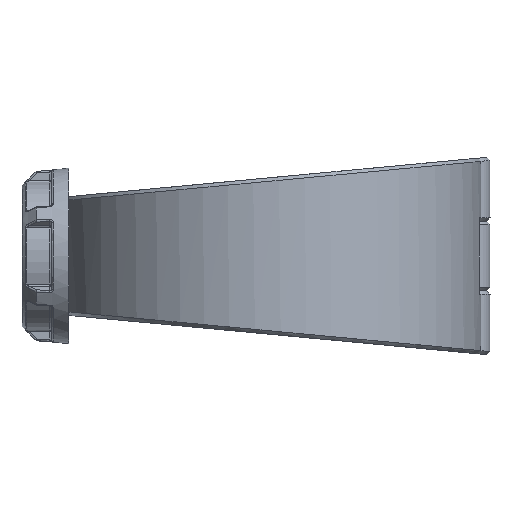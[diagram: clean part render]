
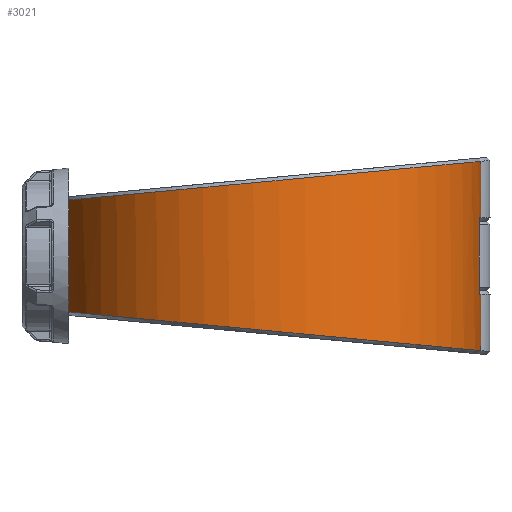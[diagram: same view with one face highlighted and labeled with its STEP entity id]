
A CAD part, left-side view. The second image highlights one B-rep face of the part: STEP entity #3021.
In plain terms, the highlighted cylindrical face has radius 123 mm (diameter 246 mm), a partial arc.
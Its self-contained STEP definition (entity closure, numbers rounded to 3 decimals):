
#212=FACE_OUTER_BOUND('',#416,.T.);
#416=EDGE_LOOP('',(#2055,#2056,#2057,#2058,#2059,#2060,#2061,#2062,#2063,
#2064,#2065,#2066));
#623=CIRCLE('',#3251,123.);
#626=CIRCLE('',#3256,123.);
#805=B_SPLINE_CURVE_WITH_KNOTS('',3,(#4512,#4513,#4514,#4515),
 .UNSPECIFIED.,.F.,.F.,(4,4),(-0.001,0.),.UNSPECIFIED.);
#806=B_SPLINE_CURVE_WITH_KNOTS('',3,(#4517,#4518,#4519,#4520),
 .UNSPECIFIED.,.F.,.F.,(4,4),(-3.052,-3.052),
 .UNSPECIFIED.);
#807=B_SPLINE_CURVE_WITH_KNOTS('',3,(#4521,#4522,#4523,#4524,#4525,#4526,
#4527,#4528,#4529,#4530),.UNSPECIFIED.,.F.,.F.,(4,1,1,1,1,1,1,4),(0.317,
0.662,1.062,1.461,1.861,2.26,
2.66,3.052),.UNSPECIFIED.);
#808=B_SPLINE_CURVE_WITH_KNOTS('',3,(#4532,#4533,#4534,#4535,#4536,#4537,
#4538,#4539,#4540,#4541),.UNSPECIFIED.,.F.,.F.,(4,1,1,1,1,1,1,4),(-3.052,
-2.66,-2.26,-1.861,-1.461,
-1.062,-0.662,-0.317),.UNSPECIFIED.);
#809=B_SPLINE_CURVE_WITH_KNOTS('',3,(#4543,#4544,#4545,#4546),
 .UNSPECIFIED.,.F.,.F.,(4,4),(3.052,3.052),
 .UNSPECIFIED.);
#810=B_SPLINE_CURVE_WITH_KNOTS('',3,(#4548,#4549,#4550,#4551),
 .UNSPECIFIED.,.F.,.F.,(4,4),(-0.354,-0.353),
 .UNSPECIFIED.);
#972=LINE('',#4391,#1093);
#979=LINE('',#4446,#1100);
#985=LINE('',#4510,#1106);
#986=LINE('',#4552,#1107);
#1093=VECTOR('',#3575,10.);
#1100=VECTOR('',#3592,10.);
#1106=VECTOR('',#3638,10.);
#1107=VECTOR('',#3639,10.);
#1216=VERTEX_POINT('',#4376);
#1217=VERTEX_POINT('',#4390);
#1229=VERTEX_POINT('',#4440);
#1230=VERTEX_POINT('',#4445);
#1236=VERTEX_POINT('',#4466);
#1239=VERTEX_POINT('',#4487);
#1243=VERTEX_POINT('',#4509);
#1244=VERTEX_POINT('',#4511);
#1245=VERTEX_POINT('',#4516);
#1246=VERTEX_POINT('',#4531);
#1247=VERTEX_POINT('',#4542);
#1248=VERTEX_POINT('',#4547);
#1510=EDGE_CURVE('',#1216,#1217,#972,.T.);
#1524=EDGE_CURVE('',#1229,#1230,#979,.T.);
#1537=EDGE_CURVE('',#1236,#1229,#623,.T.);
#1542=EDGE_CURVE('',#1230,#1239,#626,.T.);
#1548=EDGE_CURVE('',#1243,#1236,#985,.T.);
#1549=EDGE_CURVE('',#1244,#1243,#805,.T.);
#1550=EDGE_CURVE('',#1244,#1245,#806,.T.);
#1551=EDGE_CURVE('',#1217,#1245,#807,.T.);
#1552=EDGE_CURVE('',#1246,#1216,#808,.T.);
#1553=EDGE_CURVE('',#1246,#1247,#809,.T.);
#1554=EDGE_CURVE('',#1248,#1247,#810,.T.);
#1555=EDGE_CURVE('',#1239,#1248,#986,.T.);
#2055=ORIENTED_EDGE('',*,*,#1542,.F.);
#2056=ORIENTED_EDGE('',*,*,#1524,.F.);
#2057=ORIENTED_EDGE('',*,*,#1537,.F.);
#2058=ORIENTED_EDGE('',*,*,#1548,.F.);
#2059=ORIENTED_EDGE('',*,*,#1549,.F.);
#2060=ORIENTED_EDGE('',*,*,#1550,.T.);
#2061=ORIENTED_EDGE('',*,*,#1551,.F.);
#2062=ORIENTED_EDGE('',*,*,#1510,.F.);
#2063=ORIENTED_EDGE('',*,*,#1552,.F.);
#2064=ORIENTED_EDGE('',*,*,#1553,.T.);
#2065=ORIENTED_EDGE('',*,*,#1554,.F.);
#2066=ORIENTED_EDGE('',*,*,#1555,.F.);
#2962=CYLINDRICAL_SURFACE('',#3261,123.);
#3021=ADVANCED_FACE('',(#212),#2962,.T.);
#3251=AXIS2_PLACEMENT_3D('',#4482,#3614,#3615);
#3256=AXIS2_PLACEMENT_3D('',#4496,#3624,#3625);
#3261=AXIS2_PLACEMENT_3D('',#4508,#3636,#3637);
#3575=DIRECTION('',(0.,0.,1.));
#3592=DIRECTION('',(0.,0.,-1.));
#3614=DIRECTION('center_axis',(0.,0.,-1.));
#3615=DIRECTION('ref_axis',(0.312,-0.95,0.));
#3624=DIRECTION('center_axis',(0.,0.,1.));
#3625=DIRECTION('ref_axis',(0.312,-0.95,0.));
#3636=DIRECTION('center_axis',(0.,0.,1.));
#3637=DIRECTION('ref_axis',(-0.312,0.95,0.));
#3638=DIRECTION('',(0.,0.,-1.));
#3639=DIRECTION('',(0.,0.,-1.));
#4376=CARTESIAN_POINT('',(-38.407,116.85,-32.499));
#4390=CARTESIAN_POINT('',(-38.407,116.85,32.499));
#4391=CARTESIAN_POINT('',(-38.407,116.85,0.));
#4440=CARTESIAN_POINT('',(-18.081,-121.664,22.125));
#4445=CARTESIAN_POINT('',(-18.081,-121.664,-22.125));
#4446=CARTESIAN_POINT('',(-18.081,-121.664,0.));
#4466=CARTESIAN_POINT('',(-11.04,-122.504,22.125));
#4482=CARTESIAN_POINT('Origin',(0.,0.,22.125));
#4487=CARTESIAN_POINT('',(-11.04,-122.504,-22.125));
#4496=CARTESIAN_POINT('Origin',(0.,0.,-22.125));
#4508=CARTESIAN_POINT('Origin',(0.,0.,0.));
#4509=CARTESIAN_POINT('',(-11.04,-122.504,54.985));
#4510=CARTESIAN_POINT('',(-11.04,-122.504,0.));
#4511=CARTESIAN_POINT('',(-11.033,-122.504,54.991));
#4512=CARTESIAN_POINT('Ctrl Pts',(-11.033,-122.504,54.991));
#4513=CARTESIAN_POINT('Ctrl Pts',(-11.035,-122.504,54.989));
#4514=CARTESIAN_POINT('Ctrl Pts',(-11.038,-122.504,54.987));
#4515=CARTESIAN_POINT('Ctrl Pts',(-11.04,-122.504,54.985));
#4516=CARTESIAN_POINT('',(-11.04,-122.504,54.991));
#4517=CARTESIAN_POINT('Ctrl Pts',(-11.033,-122.504,54.991));
#4518=CARTESIAN_POINT('Ctrl Pts',(-11.035,-122.504,54.991));
#4519=CARTESIAN_POINT('Ctrl Pts',(-11.038,-122.504,54.991));
#4520=CARTESIAN_POINT('Ctrl Pts',(-11.04,-122.503,54.991));
#4521=CARTESIAN_POINT('Ctrl Pts',(-38.406,116.848,32.499));
#4522=CARTESIAN_POINT('Ctrl Pts',(-51.874,112.415,32.915));
#4523=CARTESIAN_POINT('Ctrl Pts',(-79.26,97.811,34.286));
#4524=CARTESIAN_POINT('Ctrl Pts',(-110.408,61.4,37.703));
#4525=CARTESIAN_POINT('Ctrl Pts',(-125.58,13.6,42.193));
#4526=CARTESIAN_POINT('Ctrl Pts',(-120.993,-36.308,46.883));
#4527=CARTESIAN_POINT('Ctrl Pts',(-97.356,-80.47,51.036));
#4528=CARTESIAN_POINT('Ctrl Pts',(-58.701,-111.775,53.981));
#4529=CARTESIAN_POINT('Ctrl Pts',(-27.015,-121.062,54.855));
#4530=CARTESIAN_POINT('Ctrl Pts',(-11.04,-122.503,54.991));
#4531=CARTESIAN_POINT('',(-11.04,-122.504,-54.991));
#4532=CARTESIAN_POINT('Ctrl Pts',(-11.04,-122.503,-54.991));
#4533=CARTESIAN_POINT('Ctrl Pts',(-27.015,-121.062,-54.855));
#4534=CARTESIAN_POINT('Ctrl Pts',(-58.696,-111.768,-53.981));
#4535=CARTESIAN_POINT('Ctrl Pts',(-97.36,-80.474,-51.036));
#4536=CARTESIAN_POINT('Ctrl Pts',(-120.992,-36.307,-46.883));
#4537=CARTESIAN_POINT('Ctrl Pts',(-125.581,13.6,-42.193));
#4538=CARTESIAN_POINT('Ctrl Pts',(-110.407,61.4,-37.703));
#4539=CARTESIAN_POINT('Ctrl Pts',(-79.261,97.811,-34.286));
#4540=CARTESIAN_POINT('Ctrl Pts',(-51.874,112.415,-32.915));
#4541=CARTESIAN_POINT('Ctrl Pts',(-38.406,116.848,-32.499));
#4542=CARTESIAN_POINT('',(-11.033,-122.504,-54.991));
#4543=CARTESIAN_POINT('Ctrl Pts',(-11.04,-122.503,-54.991));
#4544=CARTESIAN_POINT('Ctrl Pts',(-11.038,-122.504,-54.991));
#4545=CARTESIAN_POINT('Ctrl Pts',(-11.035,-122.504,-54.991));
#4546=CARTESIAN_POINT('Ctrl Pts',(-11.033,-122.504,-54.991));
#4547=CARTESIAN_POINT('',(-11.04,-122.504,-54.985));
#4548=CARTESIAN_POINT('Ctrl Pts',(-11.04,-122.504,-54.985));
#4549=CARTESIAN_POINT('Ctrl Pts',(-11.038,-122.504,-54.987));
#4550=CARTESIAN_POINT('Ctrl Pts',(-11.035,-122.504,-54.989));
#4551=CARTESIAN_POINT('Ctrl Pts',(-11.033,-122.504,-54.991));
#4552=CARTESIAN_POINT('',(-11.04,-122.504,0.));
